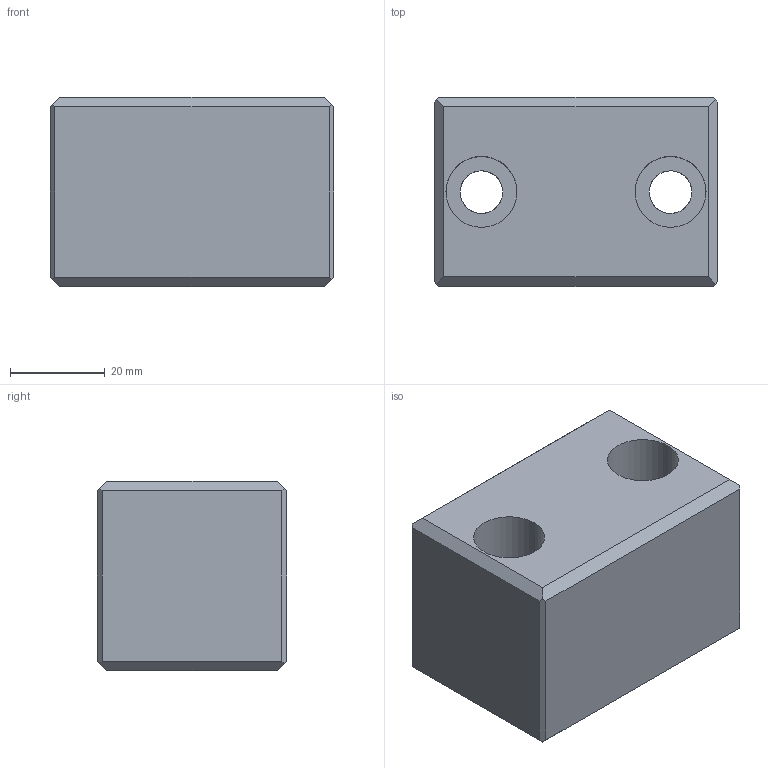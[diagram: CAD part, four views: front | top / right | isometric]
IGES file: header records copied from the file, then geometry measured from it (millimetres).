
Start section: START RECORD GO HERE.
Global section: file name: 759+60+40+40+10.igs; native system: DASSAULT SYSTEMES CATIA V5 R20 - www.3ds.com; preprocessor: CATIA Version 5 Release 20 ; author: Utente; organization: NB04-ASUS; date: 20201027.211035; units: millimetre
Bounding box: 60 x 40 x 40 mm (x, y, z)
Surface area: 15369.4 mm2 (no closed solid volume)
Topology: 0 solids, 0 shells, 28 faces, 144 edges, 144 vertices
Faces by surface type: plane 20, revolution 8
